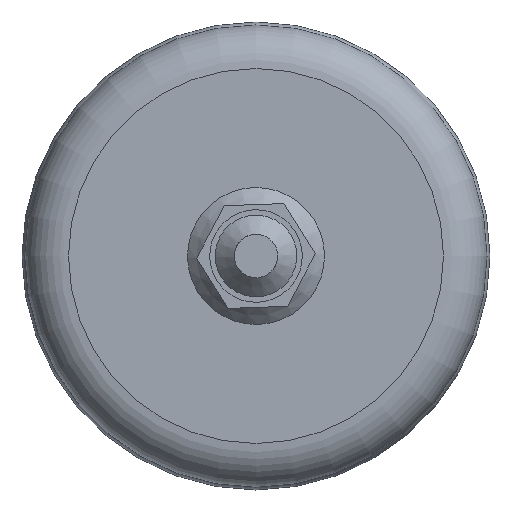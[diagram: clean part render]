
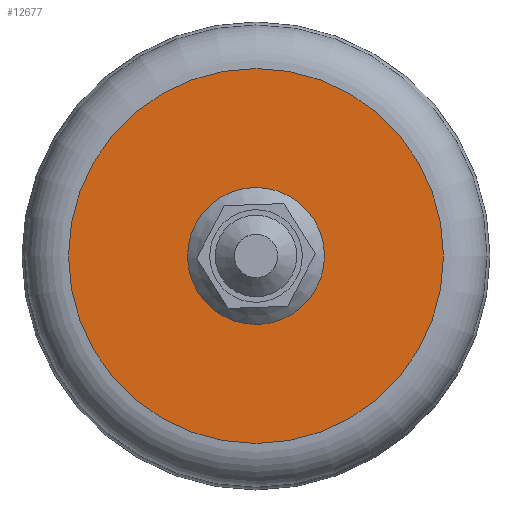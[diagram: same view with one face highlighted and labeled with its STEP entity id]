
A CAD part, front view. The second image highlights one B-rep face of the part: STEP entity #12677.
In plain terms, the highlighted planar face has unit normal (0, -1, 0).
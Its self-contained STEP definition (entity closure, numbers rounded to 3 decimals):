
#3600=PLANE('',#13421);
#4099=FACE_BOUND('',#4928,.T.);
#4199=FACE_OUTER_BOUND('',#4927,.T.);
#4927=EDGE_LOOP('',(#9005));
#4928=EDGE_LOOP('',(#9006));
#5652=CIRCLE('',#13379,11.328);
#5668=CIRCLE('',#13417,31.017);
#5709=VERTEX_POINT('',#16655);
#5737=VERTEX_POINT('',#16745);
#6989=EDGE_CURVE('',#5709,#5709,#5652,.T.);
#7029=EDGE_CURVE('',#5737,#5737,#5668,.T.);
#9005=ORIENTED_EDGE('',*,*,#7029,.T.);
#9006=ORIENTED_EDGE('',*,*,#6989,.T.);
#12677=ADVANCED_FACE('',(#4199,#4099),#3600,.T.);
#13379=AXIS2_PLACEMENT_3D('',#16656,#14018,#14019);
#13417=AXIS2_PLACEMENT_3D('',#16746,#14118,#14119);
#13421=AXIS2_PLACEMENT_3D('',#16752,#14126,#14127);
#14018=DIRECTION('center_axis',(0.,1.,0.));
#14019=DIRECTION('ref_axis',(0.999,0.,0.036));
#14118=DIRECTION('center_axis',(0.,-1.,0.));
#14119=DIRECTION('ref_axis',(-1.,0.,0.));
#14126=DIRECTION('center_axis',(0.,-1.,0.));
#14127=DIRECTION('ref_axis',(0.,0.,-1.));
#16655=CARTESIAN_POINT('',(11.321,-25.306,0.404));
#16656=CARTESIAN_POINT('Origin',(0.,-25.306,
0.));
#16745=CARTESIAN_POINT('',(-31.017,-25.306,0.));
#16746=CARTESIAN_POINT('Origin',(0.,-25.306,
0.));
#16752=CARTESIAN_POINT('Origin',(-19.284,-25.306,0.));
